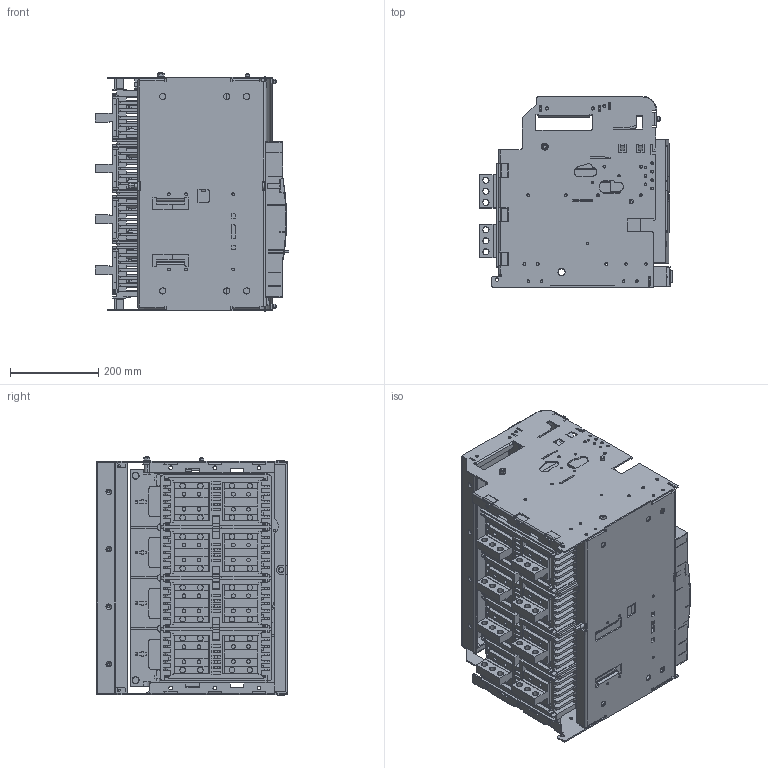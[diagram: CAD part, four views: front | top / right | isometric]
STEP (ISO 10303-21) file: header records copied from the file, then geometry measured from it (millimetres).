
FILE_DESCRIPTION(('CAx-IF Rec.Pracs.---Model Styling and Organization---1.2---2011-12-15','CAx-IF Rec.Pracs.---Geometric and Assembly Validation Properties---4.1---2014-06-16','CAx-IF Rec.Pracs.---PMI Polyline Presentation---2.0---2013-05-24'),'2;1');
FILE_NAME('YON AD-4000-S4-D 4P.stp','2021-07-13T11:30:58+03:00',(''),(''),'STEP Interface 4.4 by CT CoreTechnologie','3D_Evolution4.4 by CT CoreTechnologie','');
FILE_SCHEMA(('AUTOMOTIVE_DESIGN { 1 0 10303 214 1 1 1 1 }'));
Length unit declared in the file: millimetre
Products named in the file (1): YON AD-4000-S4-D 4P
Bounding box: 437.6 x 431.5 x 538.8 mm (x, y, z)
Surface area: 4517930.6 mm2 (no closed solid volume)
Topology: 0 solids, 55 shells, 5461 faces, 15996 edges, 10600 vertices
Faces by surface type: plane 3844, cylinder 1426, bspline 191
Entity records: 374191 total; most frequent: CARTESIAN_POINT 36920, ORIENTED_EDGE 31916, DIRECTION 29717, PROPERTY_DEFINITION 26411, EDGE_CURVE 15971, REPRESENTATION 13214, GENERAL_PROPERTY 13214, PROPERTY_DEFINITION_REPRESENTATION 13214
